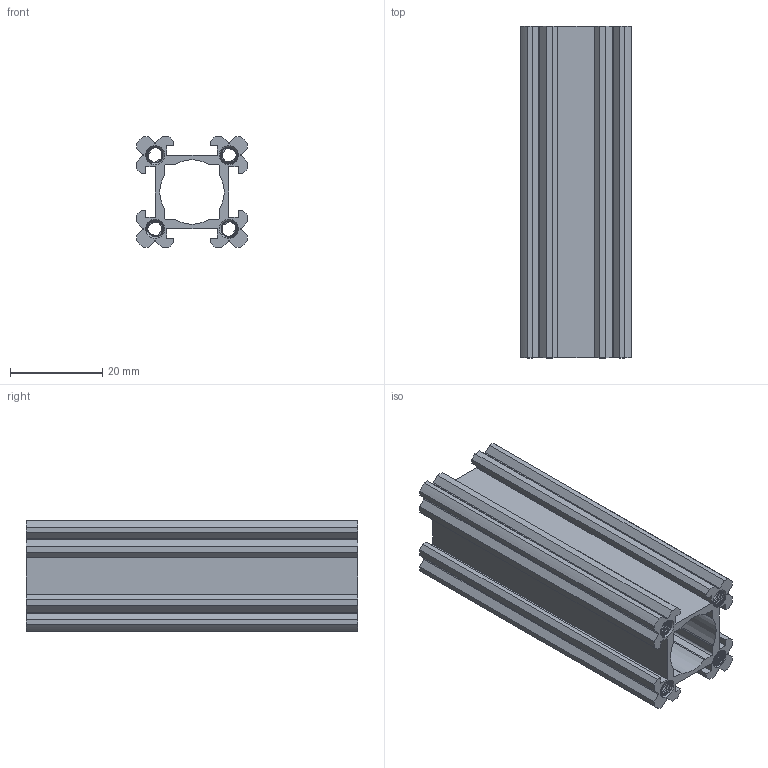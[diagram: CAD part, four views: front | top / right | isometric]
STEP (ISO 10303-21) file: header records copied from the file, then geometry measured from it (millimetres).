
FILE_DESCRIPTION (( 'STEP AP203' ), '1' );
FILE_NAME ('1109-0016-0072.STEP', '2017-05-15T21:48:16', ( '' ), ( '' ), 'SwSTEP 2.0', 'SolidWorks 2016', '' );
FILE_SCHEMA (( 'CONFIG_CONTROL_DESIGN' ));
Products named in the file (1): 1109-0016-0072
Bounding box: 24 x 72 x 24 mm (x, y, z)
Volume: 14109.3 mm3; surface area: 18716.7 mm2
Topology: 1 solids, 1 shells, 807 faces, 2405 edges, 1600 vertices
Faces by surface type: cylinder 683, plane 88, cone 20, bspline 16
Entity records: 53534 total; most frequent: CARTESIAN_POINT 35507, ORIENTED_EDGE 4810, DIRECTION 2779, EDGE_CURVE 2405, VERTEX_POINT 1600, AXIS2_PLACEMENT_3D 928, LINE 923, VECTOR 923
